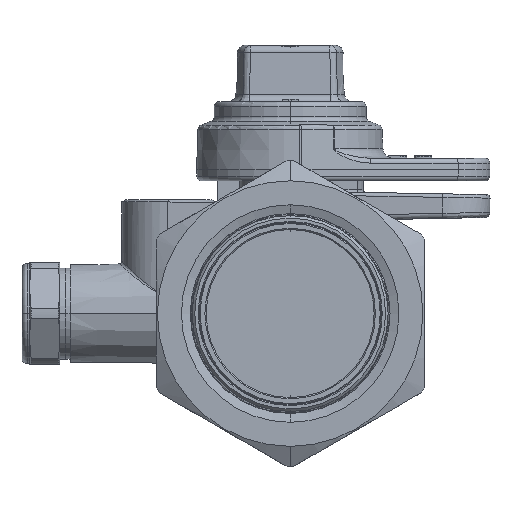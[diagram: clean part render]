
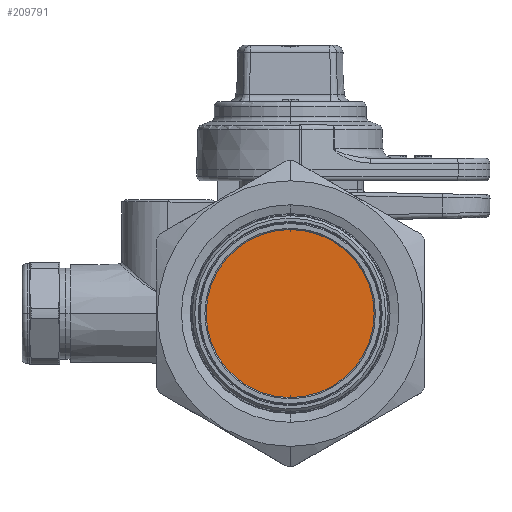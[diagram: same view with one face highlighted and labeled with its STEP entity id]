
A CAD part, left-side view. The second image highlights one B-rep face of the part: STEP entity #209791.
In plain terms, the highlighted planar face has unit normal (-1, 0, 0).
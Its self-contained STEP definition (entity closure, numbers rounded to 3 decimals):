
#209791 = ADVANCED_FACE('',(#209792),#209807,.F.);
#209792 = FACE_BOUND('',#209793,.T.);
#209793 = EDGE_LOOP('',(#209794,#209830));
#209794 = ORIENTED_EDGE('',*,*,#209795,.F.);
#209795 = EDGE_CURVE('',#209796,#209798,#209800,.T.);
#209796 = VERTEX_POINT('',#209797);
#209797 = CARTESIAN_POINT('',(-63.755,-27.388,
    -9.264));
#209798 = VERTEX_POINT('',#209799);
#209799 = CARTESIAN_POINT('',(-63.755,-27.388,
    23.945));
#209800 = SURFACE_CURVE('',#209801,(#209806,#209818),.PCURVE_S1.);
#209801 = CIRCLE('',#209802,16.605);
#209802 = AXIS2_PLACEMENT_3D('',#209803,#209804,#209805);
#209803 = CARTESIAN_POINT('',(-63.755,-27.388,
    7.34));
#209804 = DIRECTION('',(1.,0.,0.));
#209805 = DIRECTION('',(0.,0.,-1.));
#209806 = PCURVE('',#209807,#209812);
#209807 = PLANE('',#209808);
#209808 = AXIS2_PLACEMENT_3D('',#209809,#209810,#209811);
#209809 = CARTESIAN_POINT('',(-63.755,-27.388,
    7.34));
#209810 = DIRECTION('',(1.,0.,0.));
#209811 = DIRECTION('',(0.,0.,-1.));
#209812 = DEFINITIONAL_REPRESENTATION('',(#209813),#209817);
#209813 = CIRCLE('',#209814,16.605);
#209814 = AXIS2_PLACEMENT_2D('',#209815,#209816);
#209815 = CARTESIAN_POINT('',(0.,0.));
#209816 = DIRECTION('',(1.,0.));
#209817 = ( GEOMETRIC_REPRESENTATION_CONTEXT(2) 
PARAMETRIC_REPRESENTATION_CONTEXT() REPRESENTATION_CONTEXT('2D SPACE',''
  ) );
#209818 = PCURVE('',#209819,#209824);
#209819 = CONICAL_SURFACE('',#209820,16.313,0.031);
#209820 = AXIS2_PLACEMENT_3D('',#209821,#209822,#209823);
#209821 = CARTESIAN_POINT('',(-54.377,-27.388,
    7.34));
#209822 = DIRECTION('',(-1.,0.,0.));
#209823 = DIRECTION('',(0.,0.,1.));
#209824 = DEFINITIONAL_REPRESENTATION('',(#209825),#209829);
#209825 = LINE('',#209826,#209827);
#209826 = CARTESIAN_POINT('',(3.142,9.377));
#209827 = VECTOR('',#209828,1.);
#209828 = DIRECTION('',(-1.,0.));
#209829 = ( GEOMETRIC_REPRESENTATION_CONTEXT(2) 
PARAMETRIC_REPRESENTATION_CONTEXT() REPRESENTATION_CONTEXT('2D SPACE',''
  ) );
#209830 = ORIENTED_EDGE('',*,*,#209831,.T.);
#209831 = EDGE_CURVE('',#209796,#209798,#209832,.T.);
#209832 = SURFACE_CURVE('',#209833,(#209838,#209849),.PCURVE_S1.);
#209833 = CIRCLE('',#209834,16.605);
#209834 = AXIS2_PLACEMENT_3D('',#209835,#209836,#209837);
#209835 = CARTESIAN_POINT('',(-63.755,-27.388,
    7.34));
#209836 = DIRECTION('',(-1.,0.,0.));
#209837 = DIRECTION('',(0.,0.,-1.));
#209838 = PCURVE('',#209807,#209839);
#209839 = DEFINITIONAL_REPRESENTATION('',(#209840),#209848);
#209840 = ( BOUNDED_CURVE() B_SPLINE_CURVE(2,(#209841,#209842,#209843,
    #209844,#209845,#209846,#209847),.UNSPECIFIED.,.T.,.F.) 
B_SPLINE_CURVE_WITH_KNOTS((1,2,2,2,2,1),(-2.094,0.,
    2.094,4.189,6.283,8.378),
.UNSPECIFIED.) CURVE() GEOMETRIC_REPRESENTATION_ITEM() 
RATIONAL_B_SPLINE_CURVE((1.,0.5,1.,0.5,1.,0.5,1.)) REPRESENTATION_ITEM(
  '') );
#209841 = CARTESIAN_POINT('',(16.605,0.));
#209842 = CARTESIAN_POINT('',(16.605,-28.76));
#209843 = CARTESIAN_POINT('',(-8.302,-14.38));
#209844 = CARTESIAN_POINT('',(-33.209,0.));
#209845 = CARTESIAN_POINT('',(-8.302,14.38));
#209846 = CARTESIAN_POINT('',(16.605,28.76));
#209847 = CARTESIAN_POINT('',(16.605,0.));
#209848 = ( GEOMETRIC_REPRESENTATION_CONTEXT(2) 
PARAMETRIC_REPRESENTATION_CONTEXT() REPRESENTATION_CONTEXT('2D SPACE',''
  ) );
#209849 = PCURVE('',#209850,#209855);
#209850 = CONICAL_SURFACE('',#209851,16.313,0.031);
#209851 = AXIS2_PLACEMENT_3D('',#209852,#209853,#209854);
#209852 = CARTESIAN_POINT('',(-54.377,-27.388,
    7.34));
#209853 = DIRECTION('',(-1.,0.,0.));
#209854 = DIRECTION('',(0.,0.,1.));
#209855 = DEFINITIONAL_REPRESENTATION('',(#209856),#209860);
#209856 = LINE('',#209857,#209858);
#209857 = CARTESIAN_POINT('',(3.142,9.377));
#209858 = VECTOR('',#209859,1.);
#209859 = DIRECTION('',(1.,0.));
#209860 = ( GEOMETRIC_REPRESENTATION_CONTEXT(2) 
PARAMETRIC_REPRESENTATION_CONTEXT() REPRESENTATION_CONTEXT('2D SPACE',''
  ) );
